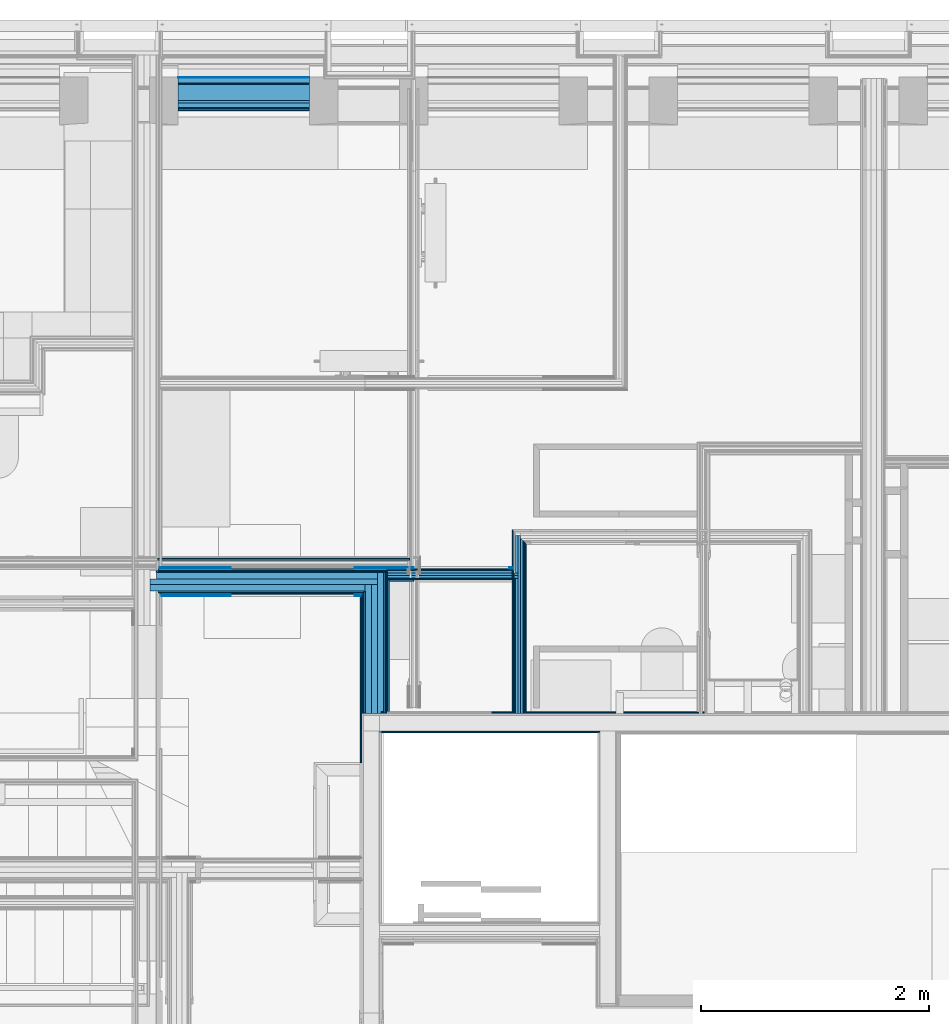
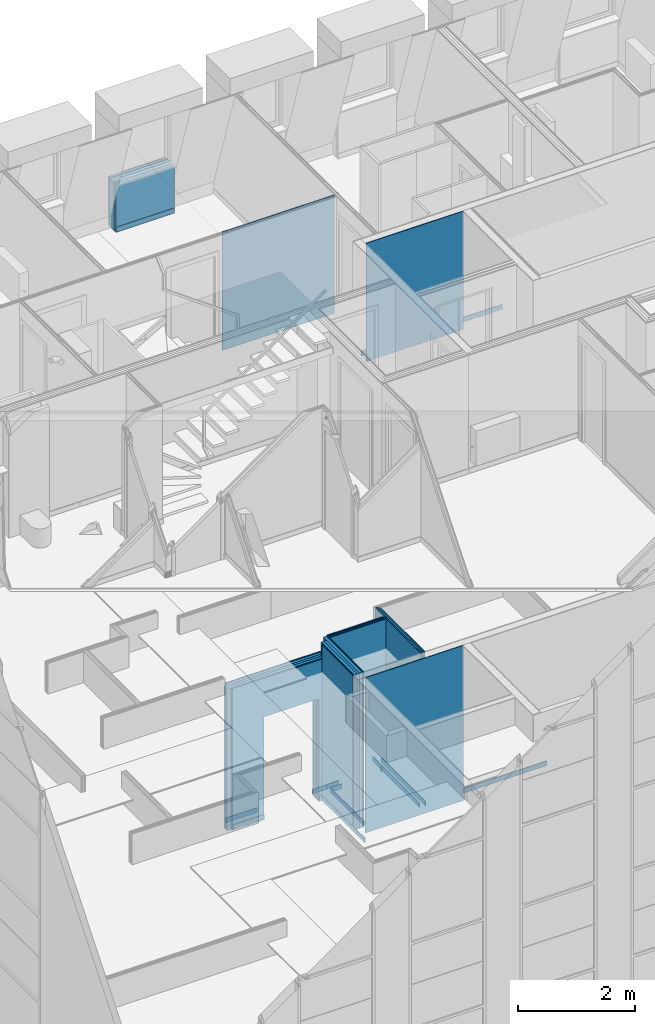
# One storey, part 29 of 169: 45 building element parts, 2 openings, 8 elements without a shape of their own.
"""IFC2X3 building model written with IfcOpenShell, lengths in metres."""

from ifc_helpers import new_model, entity, si_unit, converted_unit, derived_unit, money_unit, direction, frame, frame_2d, origin_with_axes, place, context, subcontext, project, spatial, polyline, rectangle, outline, extrude, material, type_object, element, aggregate, save


model = new_model("IFC2X3")

# Units and contexts
model_context = context("Model", 3, precision=1e-05, world=origin_with_axes(), true_north=direction((0.0, 1.0)))
body_context = subcontext(model_context, "Body", "Model", "MODEL_VIEW", scale=1.0)
ifc_project = project(units=[si_unit("LENGTHUNIT", "METRE"), si_unit("AREAUNIT", "SQUARE_METRE"), si_unit("VOLUMEUNIT", "CUBIC_METRE"), si_unit("ABSORBEDDOSEUNIT", "GRAY"), si_unit("AMOUNTOFSUBSTANCEUNIT", "MOLE"), si_unit("DOSEEQUIVALENTUNIT", "SIEVERT"), si_unit("ELECTRICCAPACITANCEUNIT", "FARAD"), si_unit("ELECTRICCHARGEUNIT", "COULOMB"), si_unit("ELECTRICCONDUCTANCEUNIT", "SIEMENS"), si_unit("ELECTRICCURRENTUNIT", "AMPERE"), si_unit("ELECTRICRESISTANCEUNIT", "OHM"), si_unit("ELECTRICVOLTAGEUNIT", "VOLT"), si_unit("ENERGYUNIT", "JOULE"), si_unit("FORCEUNIT", "NEWTON"), si_unit("FREQUENCYUNIT", "HERTZ"), si_unit("ILLUMINANCEUNIT", "LUX"), si_unit("INDUCTANCEUNIT", "HENRY"), si_unit("LUMINOUSFLUXUNIT", "LUMEN"), si_unit("LUMINOUSINTENSITYUNIT", "CANDELA"), si_unit("MAGNETICFLUXDENSITYUNIT", "TESLA"), si_unit("MAGNETICFLUXUNIT", "WEBER"), si_unit("MASSUNIT", "GRAM"), converted_unit("PLANEANGLEUNIT", "degree", entity("IfcReal", 0.0174532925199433), si_unit("PLANEANGLEUNIT", "RADIAN"), dimensions=[0, 0, 0, 0, 0, 0, 0]), si_unit("POWERUNIT", "WATT"), si_unit("PRESSUREUNIT", "PASCAL"), si_unit("RADIOACTIVITYUNIT", "BECQUEREL"), si_unit("SOLIDANGLEUNIT", "STERADIAN"), si_unit("THERMODYNAMICTEMPERATUREUNIT", "KELVIN"), si_unit("TIMEUNIT", "SECOND"), derived_unit("ACCELERATIONUNIT", [(si_unit("LENGTHUNIT", "METRE"), 1), (si_unit("TIMEUNIT", "SECOND"), -2)]), derived_unit("ANGULARVELOCITYUNIT", [(converted_unit("PLANEANGLEUNIT", "degree", entity("IfcReal", 0.0174532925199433), si_unit("PLANEANGLEUNIT", "RADIAN"), dimensions=[0, 0, 0, 0, 0, 0, 0]), 1), (si_unit("TIMEUNIT", "SECOND"), -1)]), derived_unit("CURVATUREUNIT", [(converted_unit("PLANEANGLEUNIT", "degree", entity("IfcReal", 0.0174532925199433), si_unit("PLANEANGLEUNIT", "RADIAN"), dimensions=[0, 0, 0, 0, 0, 0, 0]), 1), (si_unit("LENGTHUNIT", "METRE"), -1)]), derived_unit("DYNAMICVISCOSITYUNIT", [(si_unit("PRESSUREUNIT", "PASCAL"), 1), (si_unit("TIMEUNIT", "SECOND"), 1)]), derived_unit("HEATFLUXDENSITYUNIT", [(si_unit("POWERUNIT", "WATT"), 1), (si_unit("LENGTHUNIT", "METRE"), -2)]), derived_unit("HEATINGVALUEUNIT", [(si_unit("ENERGYUNIT", "JOULE"), 1), (si_unit("MASSUNIT", "GRAM"), -1)]), derived_unit("INTEGERCOUNTRATEUNIT", [(si_unit("TIMEUNIT", "SECOND"), -1)]), derived_unit("IONCONCENTRATIONUNIT", [(si_unit("MASSUNIT", "GRAM"), 1), (si_unit("VOLUMEUNIT", "CUBIC_METRE"), -1)]), derived_unit("ISOTHERMALMOISTURECAPACITYUNIT", [(si_unit("VOLUMEUNIT", "CUBIC_METRE"), 1), (si_unit("MASSUNIT", "GRAM"), -1)]), derived_unit("KINEMATICVISCOSITYUNIT", [(si_unit("AREAUNIT", "SQUARE_METRE"), 1), (si_unit("TIMEUNIT", "SECOND"), -1)]), derived_unit("LINEARFORCEUNIT", [(si_unit("FORCEUNIT", "NEWTON"), 1), (si_unit("LENGTHUNIT", "METRE"), -1)]), derived_unit("LINEARMOMENTUNIT", [(si_unit("FORCEUNIT", "NEWTON"), 1), (si_unit("LENGTHUNIT", "METRE"), -1)]), derived_unit("LINEARSTIFFNESSUNIT", [(si_unit("FORCEUNIT", "NEWTON"), 1), (si_unit("LENGTHUNIT", "METRE"), -1)]), derived_unit("LINEARVELOCITYUNIT", [(si_unit("LENGTHUNIT", "METRE"), 1), (si_unit("TIMEUNIT", "SECOND"), -1)]), derived_unit("LUMINOUSINTENSITYDISTRIBUTIONUNIT", [(si_unit("LUMINOUSINTENSITYUNIT", "CANDELA"), 1), (si_unit("LUMINOUSFLUXUNIT", "LUMEN"), -1)]), derived_unit("MASSDENSITYUNIT", [(si_unit("MASSUNIT", "GRAM"), 1), (si_unit("VOLUMEUNIT", "CUBIC_METRE"), -1)]), derived_unit("MASSFLOWRATEUNIT", [(si_unit("MASSUNIT", "GRAM"), 1), (si_unit("TIMEUNIT", "SECOND"), -1)]), derived_unit("MASSPERLENGTHUNIT", [(si_unit("MASSUNIT", "GRAM"), 1), (si_unit("LENGTHUNIT", "METRE"), -1)]), derived_unit("MODULUSOFELASTICITYUNIT", [(si_unit("FORCEUNIT", "NEWTON"), 1), (si_unit("AREAUNIT", "SQUARE_METRE"), -1)]), derived_unit("MODULUSOFLINEARSUBGRADEREACTIONUNIT", [(si_unit("FORCEUNIT", "NEWTON"), 1), (si_unit("LENGTHUNIT", "METRE"), -2)]), derived_unit("MODULUSOFROTATIONALSUBGRADEREACTIONUNIT", [(si_unit("FORCEUNIT", "NEWTON"), 1), (si_unit("LENGTHUNIT", "METRE"), 1)]), derived_unit("MODULUSOFSUBGRADEREACTIONUNIT", [(si_unit("FORCEUNIT", "NEWTON"), 1), (si_unit("VOLUMEUNIT", "CUBIC_METRE"), -1)]), derived_unit("MOISTUREDIFFUSIVITYUNIT", [(si_unit("VOLUMEUNIT", "CUBIC_METRE"), 1), (si_unit("TIMEUNIT", "SECOND"), -1)]), derived_unit("MOLECULARWEIGHTUNIT", [(si_unit("MASSUNIT", "GRAM"), 1), (si_unit("AMOUNTOFSUBSTANCEUNIT", "MOLE"), -1)]), derived_unit("PLANARFORCEUNIT", [(si_unit("FORCEUNIT", "NEWTON"), 1), (si_unit("LENGTHUNIT", "METRE"), -2)]), derived_unit("ROTATIONALFREQUENCYUNIT", [(si_unit("TIMEUNIT", "SECOND"), -1)]), derived_unit("ROTATIONALMASSUNIT", [(si_unit("MASSUNIT", "GRAM"), 1), (si_unit("LENGTHUNIT", "METRE"), 2)]), derived_unit("ROTATIONALSTIFFNESSUNIT", [(si_unit("FORCEUNIT", "NEWTON"), 1), (si_unit("LENGTHUNIT", "METRE"), 1), (converted_unit("PLANEANGLEUNIT", "degree", entity("IfcReal", 0.0174532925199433), si_unit("PLANEANGLEUNIT", "RADIAN"), dimensions=[0, 0, 0, 0, 0, 0, 0]), -1)]), derived_unit("SECTIONAREAINTEGRALUNIT", [(si_unit("LENGTHUNIT", "METRE"), 5)]), derived_unit("SECTIONMODULUSUNIT", [(si_unit("LENGTHUNIT", "METRE"), 3)]), derived_unit("SHEARMODULUSUNIT", [(si_unit("FORCEUNIT", "NEWTON"), 1), (si_unit("AREAUNIT", "SQUARE_METRE"), -1)]), derived_unit("SOUNDPOWERUNIT", [(si_unit("ENERGYUNIT", "JOULE"), 1), (si_unit("TIMEUNIT", "SECOND"), -1)]), derived_unit("SPECIFICHEATCAPACITYUNIT", [(si_unit("FORCEUNIT", "NEWTON"), 1), (si_unit("MASSUNIT", "GRAM"), -1), (si_unit("THERMODYNAMICTEMPERATUREUNIT", "KELVIN"), -1)]), derived_unit("TEMPERATUREGRADIENTUNIT", [(si_unit("THERMODYNAMICTEMPERATUREUNIT", "KELVIN"), 1), (si_unit("LENGTHUNIT", "METRE"), -1)]), derived_unit("THERMALADMITTANCEUNIT", [(si_unit("POWERUNIT", "WATT"), 1), (si_unit("AREAUNIT", "SQUARE_METRE"), -1), (si_unit("THERMODYNAMICTEMPERATUREUNIT", "KELVIN"), -1)]), derived_unit("THERMALCONDUCTANCEUNIT", [(si_unit("POWERUNIT", "WATT"), 1), (si_unit("LENGTHUNIT", "METRE"), -1), (si_unit("THERMODYNAMICTEMPERATUREUNIT", "KELVIN"), -1)]), derived_unit("THERMALEXPANSIONCOEFFICIENTUNIT", [(si_unit("THERMODYNAMICTEMPERATUREUNIT", "KELVIN"), -1)]), derived_unit("THERMALRESISTANCEUNIT", [(si_unit("AREAUNIT", "SQUARE_METRE"), 1), (si_unit("POWERUNIT", "WATT"), -1)]), derived_unit("THERMALTRANSMITTANCEUNIT", [(si_unit("POWERUNIT", "WATT"), 1), (si_unit("AREAUNIT", "SQUARE_METRE"), -1), (si_unit("THERMODYNAMICTEMPERATUREUNIT", "KELVIN"), -1)]), derived_unit("TORQUEUNIT", [(si_unit("FORCEUNIT", "NEWTON"), 1), (si_unit("LENGTHUNIT", "METRE"), 1)]), derived_unit("VAPORPERMEABILITYUNIT", [(si_unit("MASSUNIT", "GRAM"), 1), (si_unit("TIMEUNIT", "SECOND"), -1)]), derived_unit("VOLUMETRICFLOWRATEUNIT", [(si_unit("VOLUMEUNIT", "CUBIC_METRE"), 1), (si_unit("TIMEUNIT", "SECOND"), -1)]), derived_unit("WARPINGCONSTANTUNIT", [(si_unit("LENGTHUNIT", "METRE"), 6)]), derived_unit("WARPINGMOMENTUNIT", [(si_unit("FORCEUNIT", "NEWTON"), 1), (si_unit("LENGTHUNIT", "METRE"), 2)]), money_unit("GBP")], contexts=[model_context])

# Site, building, storey
site_placement = place(None, origin_with_axes())
site = spatial("IfcSite", under=ifc_project, at=site_placement, Name="Site", CompositionType="ELEMENT")
building_placement = place(site_placement, origin_with_axes())
building = spatial("IfcBuilding", under=site, at=building_placement, Name="Building01", CompositionType="ELEMENT")
storey_placement = place(building_placement, frame((0.0, 0.0, 5.15), z_axis=(0.0, 0.0, 1.0), x_axis=(1.0, 0.0, 0.0)))
storey = spatial("IfcBuildingStorey", under=building, at=storey_placement, Name="1F", CompositionType="ELEMENT", Elevation=5.15)

# Wall, opening, building element parts
wall_type_1 = type_object("IfcWallType", Name="SHE_A-Walls_Type01c_Partywall_225mm_twin_tall", PredefinedType="NOTDEFINED")
wall_1_placement = place(storey_placement, frame((9.197, 9.949704, 0.0), z_axis=(0.0, 0.0, 1.0), x_axis=(-1.0, 0.0, 0.0)))
wall_1 = element("IfcWall", 1, at=wall_1_placement, inside=storey, type_object=wall_type_1, Name="1C", ObjectType="SHE_A-Walls_Type01c_Partywall_225mm_twin_tall")
opening_1_placement = place(wall_1_placement, frame((0.200331, -0.153, 0.0), z_axis=(0.0, 0.0, 1.0), x_axis=(1.0, 0.0, 0.0)))
element("IfcOpeningElement", 2, at=opening_1_placement, cuts=wall_1, Name="Opening", ObjectType="Opening", context=body_context, shape_type="SweptSolid", body=[
    extrude(rectangle(XDim=1.084, YDim=2.142, at=frame_2d((-0.542, 1.071), x_axis=(-1.0, 0.0))), frame((0.0, 0.0, 0.0), z_axis=(0.0, 1.0, 0.0), x_axis=(-1.0, 0.0, 0.0)), (0.0, 0.0, 1.0), 0.255),
])
ifc_material_1 = material(Name="A_BSUK_Walls_Timber")
placement_1 = place(wall_1_placement, origin_with_axes())
building_element_part_1 = element("IfcBuildingElementPart", 3, at=placement_1, material=ifc_material_1, Name="1", context=body_context, shape_type="SweptSolid", body=[
    extrude(outline(polyline([(1.907331, -0.138), (-0.088, -0.138), (-0.103, -0.153), (1.907331, -0.153), (1.907331, -0.138)])), frame((0.0, 0.0, 0.015), z_axis=(0.0, 0.0, 1.0), x_axis=(1.0, 0.0, 0.0)), (0.0, 0.0, 1.0), 0.1),
])
ifc_material_2 = material(Name="A_BSUK_WallInternal_Finishes_Plasterboard")
building_element_part_2 = element("IfcBuildingElementPart", 4, at=placement_1, material=ifc_material_2, Name="2", context=body_context, shape_type="SweptSolid", body=[
    extrude(rectangle(XDim=2.010331, YDim=0.015, at=frame_2d((0.917166, -0.1305), x_axis=(-1.0, 0.0))), origin_with_axes(), (0.0, 0.0, 1.0), 2.95),
])
building_element_part_3 = element("IfcBuildingElementPart", 5, at=placement_1, material=ifc_material_2, Name="3", context=body_context, shape_type="SweptSolid", body=[
    extrude(rectangle(XDim=2.010331, YDim=0.015, at=frame_2d((0.932166, -0.1155), x_axis=(-1.0, 0.0))), origin_with_axes(), (0.0, 0.0, 1.0), 2.95),
])
ifc_material_3 = material(Name="Air Cavity")
building_element_part_4 = element("IfcBuildingElementPart", 6, at=placement_1, material=ifc_material_3, Name="4", context=body_context, shape_type="SweptSolid", body=[
    extrude(rectangle(XDim=2.010331, YDim=0.058, at=frame_2d((0.932166, -0.079), x_axis=(-1.0, 0.0))), origin_with_axes(), (0.0, 0.0, 1.0), 2.95),
])
ifc_material_4 = material(Name="A_BSUK_Insulation")
building_element_part_5 = element("IfcBuildingElementPart", 7, at=placement_1, material=ifc_material_4, Name="5", context=body_context, shape_type="SweptSolid", body=[
    extrude(rectangle(XDim=1.995331, YDim=0.05, at=frame_2d((0.997666, -0.025), x_axis=(-1.0, 0.0))), origin_with_axes(), (0.0, 0.0, 1.0), 2.95),
])
building_element_part_6 = element("IfcBuildingElementPart", 8, at=placement_1, material=ifc_material_3, Name="6", context=body_context, shape_type="SweptSolid", body=[
    extrude(rectangle(XDim=1.995331, YDim=0.057, at=frame_2d((0.997666, 0.0285), x_axis=(-1.0, 0.0))), origin_with_axes(), (0.0, 0.0, 1.0), 2.95),
])
building_element_part_7 = element("IfcBuildingElementPart", 9, at=placement_1, material=ifc_material_2, Name="7", context=body_context, shape_type="SweptSolid", body=[
    extrude(outline(polyline([(1.922331, 0.072), (0.122, 0.072), (0.107, 0.057), (1.922331, 0.057), (1.922331, 0.072)])), origin_with_axes(), (0.0, 0.0, 1.0), 2.95),
])
building_element_part_8 = element("IfcBuildingElementPart", 10, at=placement_1, material=ifc_material_2, Name="8", context=body_context, shape_type="SweptSolid", body=[
    extrude(outline(polyline([(1.907331, 0.087), (0.137, 0.087), (0.122, 0.072), (1.907331, 0.072), (1.907331, 0.087)])), origin_with_axes(), (0.0, 0.0, 1.0), 2.95),
])
building_element_part_9 = element("IfcBuildingElementPart", 11, at=placement_1, material=ifc_material_1, Name="9", context=body_context, shape_type="SweptSolid", body=[
    extrude(outline(polyline([(1.892331, 0.102), (0.152, 0.102), (0.137, 0.087), (1.892331, 0.087), (1.892331, 0.102)])), frame((0.0, 0.0, 0.015), z_axis=(0.0, 0.0, 1.0), x_axis=(1.0, 0.0, 0.0)), (0.0, 0.0, 1.0), 0.1),
])
aggregate(wall_1, [building_element_part_1, building_element_part_2, building_element_part_3, building_element_part_4, building_element_part_5, building_element_part_6, building_element_part_7, building_element_part_8, building_element_part_9])

wall_type_2 = type_object("IfcWallType", Name="SHE_A-Walls_Type05a_Partition_95mm_tall", PredefinedType="NOTDEFINED")
wall_2_placement = place(storey_placement, frame((10.428871, 10.052704, 0.0), z_axis=(0.0, 0.0, 1.0), x_axis=(-1.0, 0.0, 0.0)))
wall_2 = element("IfcWall", 12, at=wall_2_placement, inside=storey, type_object=wall_type_2, Name="5A", ObjectType="SHE_A-Walls_Type05a_Partition_95mm_tall")
opening_2_placement = place(wall_2_placement, frame((0.077, -0.05, 0.0), z_axis=(0.0, 0.0, 1.0), x_axis=(1.0, 0.0, 0.0)))
element("IfcOpeningElement", 13, at=opening_2_placement, cuts=wall_2, Name="Opening", ObjectType="Opening", context=body_context, shape_type="SweptSolid", body=[
    extrude(rectangle(XDim=0.834, YDim=2.142, at=frame_2d((-0.417, 1.071), x_axis=(1.0, 0.0))), frame((0.0, 0.0, 0.0), z_axis=(0.0, 1.0, 0.0), x_axis=(-1.0, 0.0, 0.0)), (0.0, 0.0, 1.0), 0.125),
])
placement_2 = place(wall_2_placement, origin_with_axes())
building_element_part_10 = element("IfcBuildingElementPart", 14, at=placement_2, material=ifc_material_1, Name="1", context=body_context, shape_type="SweptSolid", body=[
    extrude(rectangle(XDim=0.015, YDim=1.093871, at=frame_2d((0.596935, -0.0425), x_axis=(0.0, -1.0))), frame((0.0, 0.0, 0.015), z_axis=(0.0, 0.0, 1.0), x_axis=(1.0, 0.0, 0.0)), (0.0, 0.0, 1.0), 0.1),
])
building_element_part_11 = element("IfcBuildingElementPart", 15, at=placement_2, material=ifc_material_2, Name="2", context=body_context, shape_type="SweptSolid", body=[
    extrude(rectangle(XDim=1.108871, YDim=0.012, at=frame_2d((0.589435, -0.029), x_axis=(-1.0, 0.0))), origin_with_axes(), (0.0, 0.0, 1.0), 3.24),
])
building_element_part_12 = element("IfcBuildingElementPart", 16, at=placement_2, material=ifc_material_3, Name="3", context=body_context, shape_type="SweptSolid", body=[
    extrude(rectangle(XDim=1.108871, YDim=0.023, at=frame_2d((0.589435, -0.0115), x_axis=(-1.0, 0.0))), origin_with_axes(), (0.0, 0.0, 1.0), 3.24),
])
building_element_part_13 = element("IfcBuildingElementPart", 17, at=placement_2, material=ifc_material_4, Name="4", context=body_context, shape_type="SweptSolid", body=[
    extrude(rectangle(XDim=1.143871, YDim=0.025, at=frame_2d((0.571935, 0.0125), x_axis=(-1.0, 0.0))), origin_with_axes(), (0.0, 0.0, 1.0), 3.24),
])
building_element_part_14 = element("IfcBuildingElementPart", 18, at=placement_2, material=ifc_material_3, Name="5", context=body_context, shape_type="SweptSolid", body=[
    extrude(rectangle(XDim=1.143871, YDim=0.023, at=frame_2d((0.571935, 0.0365), x_axis=(-1.0, 0.0))), origin_with_axes(), (0.0, 0.0, 1.0), 3.24),
])
building_element_part_15 = element("IfcBuildingElementPart", 19, at=placement_2, material=ifc_material_2, Name="6", context=body_context, shape_type="SweptSolid", body=[
    extrude(rectangle(XDim=1.108871, YDim=0.012, at=frame_2d((0.589435, 0.054), x_axis=(-1.0, 0.0))), origin_with_axes(), (0.0, 0.0, 1.0), 3.24),
])
building_element_part_16 = element("IfcBuildingElementPart", 20, at=placement_2, material=ifc_material_1, Name="7", context=body_context, shape_type="SweptSolid", body=[
    extrude(outline(polyline([(1.128871, 0.075), (0.25, 0.075), (0.235, 0.06), (1.128871, 0.06), (1.128871, 0.075)])), frame((0.0, 0.0, 0.015), z_axis=(0.0, 0.0, 1.0), x_axis=(1.0, 0.0, 0.0)), (0.0, 0.0, 1.0), 0.1),
])
aggregate(wall_2, [building_element_part_10, building_element_part_11, building_element_part_12, building_element_part_13, building_element_part_14, building_element_part_15, building_element_part_16])

# Wall, building element parts
wall_type_3 = type_object("IfcWallType", Name="SHE_A-Walls_Type03a_BlockworkWall_170mm", PredefinedType="NOTDEFINED")
wall_3_placement = place(storey_placement, frame((17.985, 8.805, 0.0), z_axis=(0.0, 0.0, 1.0), x_axis=(-1.0, 0.0, 0.0)))
wall_3 = element("IfcWall", 21, at=wall_3_placement, inside=storey, type_object=wall_type_3, Name="4B", ObjectType="SHE_A-Walls_Type03a_BlockworkWall_170mm")
placement_3 = place(wall_3_placement, origin_with_axes())
building_element_part_17 = element("IfcBuildingElementPart", 22, at=placement_3, material=ifc_material_1, Name="5", context=body_context, shape_type="SweptSolid", body=[
    extrude(rectangle(XDim=2.589714, YDim=0.015, at=frame_2d((6.386272, -0.0225), x_axis=(-1.0, 0.0))), frame((0.0, 0.0, 0.015), z_axis=(0.0, 0.0, 1.0), x_axis=(1.0, 0.0, 0.0)), (0.0, 0.0, 1.0), 0.1),
])
ifc_material_5 = material(Name="A_BSUK_WallInternal_Finishes_Plaster")
building_element_part_18 = element("IfcBuildingElementPart", 23, at=placement_3, material=ifc_material_5, Name="10", context=body_context, shape_type="SweptSolid", body=[
    extrude(rectangle(XDim=1.93, YDim=0.015, at=frame_2d((7.805, 0.1475), x_axis=(-1.0, 0.0))), origin_with_axes(), (0.0, 0.0, 1.0), 3.24),
])
aggregate(wall_3, [building_element_part_17, building_element_part_18])

wall_4_placement = place(storey_placement, frame((9.147, 8.82, 0.0), z_axis=(0.0, 0.0, 1.0), x_axis=(0.0, 1.0, 0.0)))
wall_4 = element("IfcWall", 24, at=wall_4_placement, inside=storey, type_object=wall_type_1, Name="1C", ObjectType="SHE_A-Walls_Type01c_Partywall_225mm_twin_tall")
placement_4 = place(wall_4_placement, origin_with_axes())
building_element_part_19 = element("IfcBuildingElementPart", 25, at=placement_4, material=ifc_material_1, Name="1", context=body_context, shape_type="SweptSolid", body=[
    extrude(rectangle(XDim=1.157704, YDim=0.015, at=frame_2d((0.593852, -0.1455), x_axis=(-1.0, 0.0))), frame((0.0, 0.0, 0.015), z_axis=(0.0, 0.0, 1.0), x_axis=(1.0, 0.0, 0.0)), (0.0, 0.0, 1.0), 0.1),
])
building_element_part_20 = element("IfcBuildingElementPart", 26, at=placement_4, material=ifc_material_2, Name="2", context=body_context, shape_type="SweptSolid", body=[
    extrude(rectangle(XDim=1.252704, YDim=0.015, at=frame_2d((0.626352, -0.1305), x_axis=(-1.0, 0.0))), origin_with_axes(), (0.0, 0.0, 1.0), 3.24),
])
building_element_part_21 = element("IfcBuildingElementPart", 27, at=placement_4, material=ifc_material_2, Name="3", context=body_context, shape_type="SweptSolid", body=[
    extrude(rectangle(XDim=1.237704, YDim=0.015, at=frame_2d((0.618852, -0.1155), x_axis=(-1.0, 0.0))), origin_with_axes(), (0.0, 0.0, 1.0), 3.24),
])
building_element_part_22 = element("IfcBuildingElementPart", 28, at=placement_4, material=ifc_material_3, Name="4", context=body_context, shape_type="SweptSolid", body=[
    extrude(rectangle(XDim=1.237704, YDim=0.058, at=frame_2d((0.618852, -0.079), x_axis=(-1.0, 0.0))), origin_with_axes(), (0.0, 0.0, 1.0), 3.24),
])
building_element_part_23 = element("IfcBuildingElementPart", 29, at=placement_4, material=ifc_material_4, Name="5", context=body_context, shape_type="SweptSolid", body=[
    extrude(rectangle(XDim=1.129704, YDim=0.05, at=frame_2d((0.564852, -0.025), x_axis=(-1.0, 0.0))), origin_with_axes(), (0.0, 0.0, 1.0), 3.24),
])
building_element_part_24 = element("IfcBuildingElementPart", 30, at=placement_4, material=ifc_material_3, Name="6", context=body_context, shape_type="SweptSolid", body=[
    extrude(rectangle(XDim=1.129704, YDim=0.057, at=frame_2d((0.564852, 0.0285), x_axis=(-1.0, 0.0))), origin_with_axes(), (0.0, 0.0, 1.0), 3.24),
])
building_element_part_25 = element("IfcBuildingElementPart", 31, at=placement_4, material=ifc_material_2, Name="7", context=body_context, shape_type="SweptSolid", body=[
    extrude(outline(polyline([(1.057704, 0.072), (0.0, 0.072), (0.0, 0.057), (1.072704, 0.057), (1.057704, 0.072)])), origin_with_axes(), (0.0, 0.0, 1.0), 3.24),
])
building_element_part_26 = element("IfcBuildingElementPart", 32, at=placement_4, material=ifc_material_2, Name="8", context=body_context, shape_type="SweptSolid", body=[
    extrude(outline(polyline([(1.042704, 0.087), (0.0, 0.087), (0.0, 0.072), (1.057704, 0.072), (1.042704, 0.087)])), origin_with_axes(), (0.0, 0.0, 1.0), 3.24),
])
building_element_part_27 = element("IfcBuildingElementPart", 33, at=placement_4, material=ifc_material_1, Name="9", context=body_context, shape_type="SweptSolid", body=[
    extrude(outline(polyline([(1.027704, 0.102), (-0.432595, 0.102), (-0.432595, 0.087), (1.042704, 0.087), (1.027704, 0.102)])), frame((0.0, 0.0, 0.015), z_axis=(0.0, 0.0, 1.0), x_axis=(1.0, 0.0, 0.0)), (0.0, 0.0, 1.0), 0.1),
])
aggregate(wall_4, [building_element_part_19, building_element_part_20, building_element_part_21, building_element_part_22, building_element_part_23, building_element_part_24, building_element_part_25, building_element_part_26, building_element_part_27])

wall_5_placement = place(storey_placement, frame((10.453871, 8.82, 0.0), z_axis=(0.0, 0.0, 1.0), x_axis=(0.0, 1.0, 0.0)))
wall_5 = element("IfcWall", 34, at=wall_5_placement, inside=storey, type_object=wall_type_2, Name="5A", ObjectType="SHE_A-Walls_Type05a_Partition_95mm_tall")
placement_5 = place(wall_5_placement, origin_with_axes())
building_element_part_28 = element("IfcBuildingElementPart", 35, at=placement_5, material=ifc_material_1, Name="1", context=body_context, shape_type="SweptSolid", body=[
    extrude(outline(polyline([(1.5, -0.035), (0.0, -0.035), (0.0, -0.05), (1.485, -0.05), (1.5, -0.035)])), frame((0.0, 0.0, 0.015), z_axis=(0.0, 0.0, 1.0), x_axis=(1.0, 0.0, 0.0)), (0.0, 0.0, 1.0), 0.1),
])
building_element_part_29 = element("IfcBuildingElementPart", 36, at=placement_5, material=ifc_material_2, Name="2", context=body_context, shape_type="SweptSolid", body=[
    extrude(outline(polyline([(1.512, -0.023), (0.0, -0.023), (0.0, -0.035), (1.5, -0.035), (1.512, -0.023)])), origin_with_axes(), (0.0, 0.0, 1.0), 3.24),
])
building_element_part_30 = element("IfcBuildingElementPart", 37, at=placement_5, material=ifc_material_3, Name="3", context=body_context, shape_type="SweptSolid", body=[
    extrude(outline(polyline([(1.535, 0.0), (0.0, 0.0), (0.0, -0.023), (1.512, -0.023), (1.535, 0.0)])), origin_with_axes(), (0.0, 0.0, 1.0), 3.24),
])
building_element_part_31 = element("IfcBuildingElementPart", 38, at=placement_5, material=ifc_material_4, Name="4", context=body_context, shape_type="SweptSolid", body=[
    extrude(rectangle(XDim=1.56, YDim=0.025, at=frame_2d((0.78, 0.0125), x_axis=(-1.0, 0.0))), origin_with_axes(), (0.0, 0.0, 1.0), 3.24),
])
building_element_part_32 = element("IfcBuildingElementPart", 39, at=placement_5, material=ifc_material_3, Name="5", context=body_context, shape_type="SweptSolid", body=[
    extrude(rectangle(XDim=1.56, YDim=0.023, at=frame_2d((0.78, 0.0365), x_axis=(-1.0, 0.0))), origin_with_axes(), (0.0, 0.0, 1.0), 3.24),
])
building_element_part_33 = element("IfcBuildingElementPart", 40, at=placement_5, material=ifc_material_2, Name="6", context=body_context, shape_type="SweptSolid", body=[
    extrude(rectangle(XDim=0.012, YDim=1.184704, at=frame_2d((0.592352, 0.054), x_axis=(0.0, -1.0))), origin_with_axes(), (0.0, 0.0, 1.0), 3.24),
])
building_element_part_34 = element("IfcBuildingElementPart", 41, at=placement_5, material=ifc_material_1, Name="8", context=body_context, shape_type="SweptSolid", body=[
    extrude(outline(polyline([(1.61, 0.075), (0.015, 0.075), (0.015, 0.06), (1.595, 0.06), (1.61, 0.075)])), frame((0.0, 0.0, 0.015), z_axis=(0.0, 0.0, 1.0), x_axis=(1.0, 0.0, 0.0)), (0.0, 0.0, 1.0), 0.1),
])
aggregate(wall_5, [building_element_part_28, building_element_part_29, building_element_part_30, building_element_part_31, building_element_part_32, building_element_part_33, building_element_part_34])

wall_type_4 = type_object("IfcWallType", Name="SHE_A-Walls_Type06e_ExternalWallPenthouse_280mm", PredefinedType="NOTDEFINED")
wall_6_placement = place(storey_placement, frame((7.450024, 14.335061, 9.83), z_axis=(0.0, 0.0, 1.0), x_axis=(1.0, 0.0, 0.0)))
wall_6 = element("IfcWall", 42, at=wall_6_placement, inside=storey, type_object=wall_type_4, Name="6E", ObjectType="SHE_A-Walls_Type06e_ExternalWallPenthouse_280mm")
placement_6 = place(wall_6_placement, origin_with_axes())
building_element_part_35 = element("IfcBuildingElementPart", 43, at=placement_6, material=ifc_material_1, Name="1", context=body_context, shape_type="SweptSolid", body=[
    extrude(rectangle(XDim=1.149951, YDim=0.015, at=frame_2d((0.574976, -0.2225), x_axis=(-1.0, 0.0))), frame((0.0, 0.0, 0.015), z_axis=(0.0, 0.0, 1.0), x_axis=(1.0, 0.0, 0.0)), (0.0, 0.0, 1.0), 0.1),
])
building_element_part_36 = element("IfcBuildingElementPart", 44, at=placement_6, material=ifc_material_2, Name="2", context=body_context, shape_type="SweptSolid", body=[
    extrude(rectangle(XDim=1.149951, YDim=0.01, at=frame_2d((0.574976, -0.21), x_axis=(-1.0, 0.0))), origin_with_axes(), (0.0, 0.0, 1.0), 1.0),
])
building_element_part_37 = element("IfcBuildingElementPart", 45, at=placement_6, material=ifc_material_4, Name="3", context=body_context, shape_type="SweptSolid", body=[
    extrude(rectangle(XDim=1.149951, YDim=0.04, at=frame_2d((0.574976, -0.185), x_axis=(-1.0, 0.0))), origin_with_axes(), (0.0, 0.0, 1.0), 1.0),
])
building_element_part_38 = element("IfcBuildingElementPart", 46, at=placement_6, material=ifc_material_3, Name="4", context=body_context, shape_type="SweptSolid", body=[
    extrude(rectangle(XDim=1.149951, YDim=0.025, at=frame_2d((0.574976, -0.1525), x_axis=(-1.0, 0.0))), origin_with_axes(), (0.0, 0.0, 1.0), 1.0),
])
building_element_part_39 = element("IfcBuildingElementPart", 47, at=placement_6, material=ifc_material_4, Name="5", context=body_context, shape_type="SweptSolid", body=[
    extrude(rectangle(XDim=1.149951, YDim=0.14, at=frame_2d((0.574976, -0.07), x_axis=(-1.0, 0.0))), origin_with_axes(), (0.0, 0.0, 1.0), 1.0),
])
building_element_part_40 = element("IfcBuildingElementPart", 48, at=placement_6, material=ifc_material_1, Name="6", context=body_context, shape_type="SweptSolid", body=[
    extrude(rectangle(XDim=1.149951, YDim=0.01, at=frame_2d((0.574976, 0.005), x_axis=(-1.0, 0.0))), origin_with_axes(), (0.0, 0.0, 1.0), 1.0),
])
building_element_part_41 = element("IfcBuildingElementPart", 49, at=placement_6, material=ifc_material_3, Name="7", context=body_context, shape_type="SweptSolid", body=[
    extrude(rectangle(XDim=1.149951, YDim=0.05, at=frame_2d((0.574976, 0.035), x_axis=(-1.0, 0.0))), origin_with_axes(), (0.0, 0.0, 1.0), 1.0),
])
ifc_material_6 = material(Name="A_BSUK_WallInternal_Finishes_Metal")
building_element_part_42 = element("IfcBuildingElementPart", 50, at=placement_6, material=ifc_material_6, Name="8", context=body_context, shape_type="SweptSolid", body=[
    extrude(rectangle(XDim=1.149951, YDim=0.005, at=frame_2d((0.574976, 0.0625), x_axis=(-1.0, 0.0))), origin_with_axes(), (0.0, 0.0, 1.0), 1.0),
])
aggregate(wall_6, [building_element_part_35, building_element_part_36, building_element_part_37, building_element_part_38, building_element_part_39, building_element_part_40, building_element_part_41, building_element_part_42])

wall_7_placement = place(storey_placement, frame((9.215, 8.665, 9.83), z_axis=(0.0, 0.0, 1.0), x_axis=(1.0, 0.0, 0.0)))
wall_7 = element("IfcWall", 51, at=wall_7_placement, inside=storey, type_object=wall_type_3, Name="4B", ObjectType="SHE_A-Walls_Type03a_BlockworkWall_170mm")
placement_7 = place(wall_7_placement, origin_with_axes())
building_element_part_43 = element("IfcBuildingElementPart", 52, at=placement_7, material=ifc_material_2, Name="2", context=body_context, shape_type="SweptSolid", body=[
    extrude(rectangle(XDim=1.915, YDim=0.015, at=frame_2d((0.9725, -0.0075), x_axis=(-1.0, 0.0))), origin_with_axes(), (0.0, 0.0, 1.0), 2.468),
])
building_element_part_44 = element("IfcBuildingElementPart", 53, at=placement_7, material=ifc_material_1, Name="6", context=body_context, shape_type="SweptSolid", body=[
    extrude(rectangle(XDim=2.787381, YDim=0.015, at=frame_2d((1.40869, 0.1625), x_axis=(-1.0, 0.0))), frame((0.0, 0.0, 0.015), z_axis=(0.0, 0.0, 1.0), x_axis=(1.0, 0.0, 0.0)), (0.0, 0.0, 1.0), 0.1),
])
aggregate(wall_7, [building_element_part_43, building_element_part_44])

# Wall, building element part
wall_type_5 = type_object("IfcWallType", Name="SHE_A-Walls_Type05b_Partition_80mm", PredefinedType="NOTDEFINED")
wall_8_placement = place(storey_placement, frame((2.872, 10.126939, 9.83), z_axis=(0.0, 0.0, 1.0), x_axis=(1.0, 0.0, 0.0)))
wall_8 = element("IfcWall", 54, at=wall_8_placement, inside=storey, type_object=wall_type_5, Name="5B", ObjectType="SHE_A-Walls_Type05b_Partition_80mm")
building_element_part_45_placement = place(wall_8_placement, origin_with_axes())
building_element_part_45 = element("IfcBuildingElementPart", 55, at=building_element_part_45_placement, material=ifc_material_2, Name="9", context=body_context, shape_type="SweptSolid", body=[
    extrude(rectangle(XDim=0.015, YDim=2.21, at=frame_2d((5.503024, 0.0455), x_axis=(0.0, -1.0))), origin_with_axes(), (0.0, 0.0, 1.0), 2.468),
])
aggregate(wall_8, [building_element_part_45])

save(model, "model.ifc")
